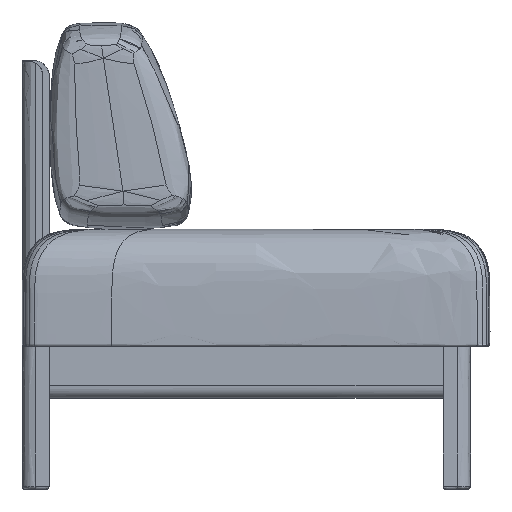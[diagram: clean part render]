
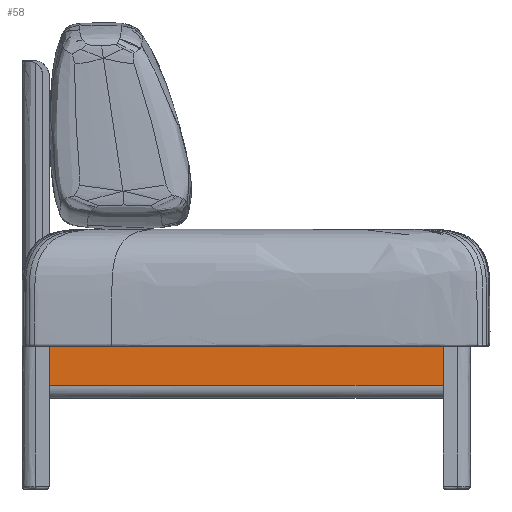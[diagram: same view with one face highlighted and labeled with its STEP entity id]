
A CAD part, left-side view. The second image highlights one B-rep face of the part: STEP entity #58.
In plain terms, the highlighted free-form (B-spline) face has degree [3, 3] with [4, 4] control points.
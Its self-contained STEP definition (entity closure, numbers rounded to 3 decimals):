
#58=ADVANCED_FACE('',(#291),#3503,.T.);
#291=FACE_OUTER_BOUND('',#524,.T.);
#524=EDGE_LOOP('',(#795,#796,#797,#798));
#795=ORIENTED_EDGE('',*,*,#1957,.T.);
#796=ORIENTED_EDGE('',*,*,#1961,.F.);
#797=ORIENTED_EDGE('',*,*,#1954,.T.);
#798=ORIENTED_EDGE('',*,*,#1962,.T.);
#1954=EDGE_CURVE('',#3125,#3126,#2555,.T.);
#1957=EDGE_CURVE('',#3129,#3130,#2558,.T.);
#1961=EDGE_CURVE('',#3125,#3130,#2562,.T.);
#1962=EDGE_CURVE('',#3126,#3129,#2563,.T.);
#2555=B_SPLINE_CURVE_WITH_KNOTS('',3,(#6352,#6353,#6354,#6355),
 .UNSPECIFIED.,.F.,.F.,(4,4),(-60.,0.),.UNSPECIFIED.);
#2558=B_SPLINE_CURVE_WITH_KNOTS('',3,(#6364,#6365,#6366,#6367),
 .UNSPECIFIED.,.F.,.F.,(4,4),(-60.,0.),.UNSPECIFIED.);
#2562=B_SPLINE_CURVE_WITH_KNOTS('',3,(#6380,#6381,#6382,#6383),
 .UNSPECIFIED.,.F.,.F.,(4,4),(-1.,0.),.UNSPECIFIED.);
#2563=B_SPLINE_CURVE_WITH_KNOTS('',3,(#6384,#6385,#6386,#6387),
 .UNSPECIFIED.,.F.,.F.,(4,4),(-1.,0.),.UNSPECIFIED.);
#3125=VERTEX_POINT('',#6039);
#3126=VERTEX_POINT('',#6040);
#3129=VERTEX_POINT('',#6043);
#3130=VERTEX_POINT('',#6044);
#3503=B_SPLINE_SURFACE_WITH_KNOTS('',3,3,((#4013,#4014,#4015,#4016),(#4017,
#4018,#4019,#4020),(#4021,#4022,#4023,#4024),(#4025,#4026,#4027,#4028)),
 .UNSPECIFIED.,.F.,.F.,.F.,(4,4),(4,4),(0.,1.),(0.,1.),.UNSPECIFIED.);
#4013=CARTESIAN_POINT('',(-734.164,-288.001,160.));
#4014=CARTESIAN_POINT('',(-734.164,-86.001,160.));
#4015=CARTESIAN_POINT('',(-734.164,116.,160.));
#4016=CARTESIAN_POINT('',(-734.164,318.,160.));
#4017=CARTESIAN_POINT('',(-734.164,-288.001,180.));
#4018=CARTESIAN_POINT('',(-734.164,-86.001,180.));
#4019=CARTESIAN_POINT('',(-734.164,116.,180.));
#4020=CARTESIAN_POINT('',(-734.164,318.,180.));
#4021=CARTESIAN_POINT('',(-734.164,-288.001,200.));
#4022=CARTESIAN_POINT('',(-734.164,-86.001,200.));
#4023=CARTESIAN_POINT('',(-734.164,116.,200.));
#4024=CARTESIAN_POINT('',(-734.164,318.,200.));
#4025=CARTESIAN_POINT('',(-734.164,-288.001,220.));
#4026=CARTESIAN_POINT('',(-734.164,-86.001,220.));
#4027=CARTESIAN_POINT('',(-734.164,116.,220.));
#4028=CARTESIAN_POINT('',(-734.164,318.,220.));
#6039=CARTESIAN_POINT('',(-734.164,318.,220.));
#6040=CARTESIAN_POINT('',(-734.164,318.,160.));
#6043=CARTESIAN_POINT('',(-734.164,-288.001,160.));
#6044=CARTESIAN_POINT('',(-734.164,-288.001,220.));
#6352=CARTESIAN_POINT('',(-734.164,318.,220.));
#6353=CARTESIAN_POINT('',(-734.164,318.,200.));
#6354=CARTESIAN_POINT('',(-734.164,318.,180.));
#6355=CARTESIAN_POINT('',(-734.164,318.,160.));
#6364=CARTESIAN_POINT('',(-734.164,-288.001,160.));
#6365=CARTESIAN_POINT('',(-734.164,-288.001,180.));
#6366=CARTESIAN_POINT('',(-734.164,-288.001,200.));
#6367=CARTESIAN_POINT('',(-734.164,-288.001,220.));
#6380=CARTESIAN_POINT('',(-734.164,318.,220.));
#6381=CARTESIAN_POINT('',(-734.164,116.,220.));
#6382=CARTESIAN_POINT('',(-734.164,-86.001,220.));
#6383=CARTESIAN_POINT('',(-734.164,-288.001,220.));
#6384=CARTESIAN_POINT('',(-734.164,318.,160.));
#6385=CARTESIAN_POINT('',(-734.164,116.,160.));
#6386=CARTESIAN_POINT('',(-734.164,-86.001,160.));
#6387=CARTESIAN_POINT('',(-734.164,-288.001,160.));
